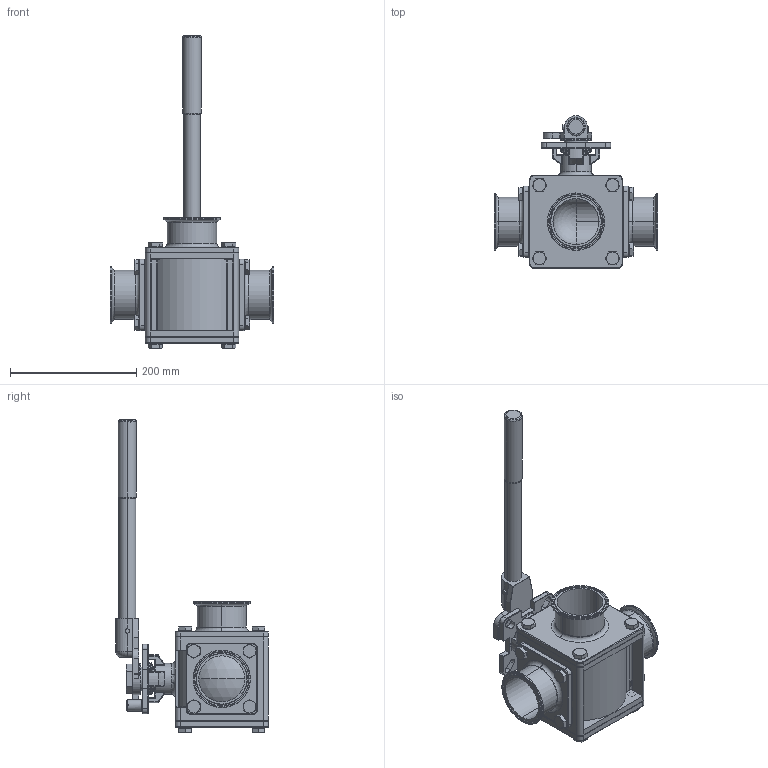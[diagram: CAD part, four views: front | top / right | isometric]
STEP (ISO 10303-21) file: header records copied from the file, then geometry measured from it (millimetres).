
FILE_DESCRIPTION (( 'STEP AP203' ), '1' );
FILE_NAME ('EG93CCC-63.0.STEP', '2019-07-02T02:30:09', ( '' ), ( '' ), 'SwSTEP 2.0', 'SolidWorks 2014', '' );
FILE_SCHEMA (( 'CONFIG_CONTROL_DESIGN' ));
Length unit declared in the file: millimetre
Products named in the file (27): 5.GASKET3.0; 4.SEAT1-3.0; 10.BEVEL WASHER3.0-4.0; 1.3WAY-BODY3.0; EG93CCC-63.0; 3.3WAY-BALL-3.0-L; 7.O-RING3.0-4.0; 6.THRUST WASHER3.0-4.0; 21.PLAIN WASHER3.0-4.0; 17.LOCKING TAB3.0-4.0; 22.SEAT-L-3.0; 20.SEAT BACK3.0; 19.3WAY-CAP3.0; 13.STEM3.0-4.0; 16.BOLT3.0; 15.SPRING WASHER3.0; 12.3WAY-NUT3.0-4.0; 14.HANDLE3.0-4.0-1; 9.RING3.0-4.0; 8.STEM PACKING3.0-4.0; 14.HANDLE2.5-4.0-3; 11.STOP PIN3.0-4.0; 14.HANDLE3.0-4.0-2; 2.3WAY-CAP-C-3.0B; 2.3WAY-CAP-C-3.0S; 22.SEAT-R-3.0; 18.THINNER NUT3.0-4.0
Assembly tree (60 placements, depth 2):
  EG93CCC-63.0
    1.3WAY-BODY3.0
    13.STEM3.0-4.0
    6.THRUST WASHER3.0-4.0
    7.O-RING3.0-4.0
    3.3WAY-BALL-3.0-L
    4.SEAT1-3.0  x2
    5.GASKET3.0  x2
    22.SEAT-L-3.0
    22.SEAT-R-3.0
    20.SEAT BACK3.0
    19.3WAY-CAP3.0
    16.BOLT3.0  x16
    15.SPRING WASHER3.0  x16
    2.3WAY-CAP-C-3.0S  x2
    2.3WAY-CAP-C-3.0B
    11.STOP PIN3.0-4.0
    8.STEM PACKING3.0-4.0
    9.RING3.0-4.0
    10.BEVEL WASHER3.0-4.0  x2
    18.THINNER NUT3.0-4.0
    17.LOCKING TAB3.0-4.0
    21.PLAIN WASHER3.0-4.0
    14.HANDLE3.0-4.0-1
    14.HANDLE3.0-4.0-2
    14.HANDLE2.5-4.0-3
    12.3WAY-NUT3.0-4.0
Bounding box: 260 x 242.39 x 495.7 mm (x, y, z)
Volume: 3041555.9 mm3; surface area: 808443.1 mm2
Topology: 61 solids, 61 shells, 1589 faces, 3572 edges, 2111 vertices
Faces by surface type: cylinder 572, plane 417, cone 266, torus 220, sphere 59, bspline 55
Entity records: 38038 total; most frequent: CARTESIAN_POINT 8767, DIRECTION 5878, ORIENTED_EDGE 5040, EDGE_CURVE 2520, AXIS2_PLACEMENT_3D 2492, VERTEX_POINT 1493, CIRCLE 1381, EDGE_LOOP 1219
